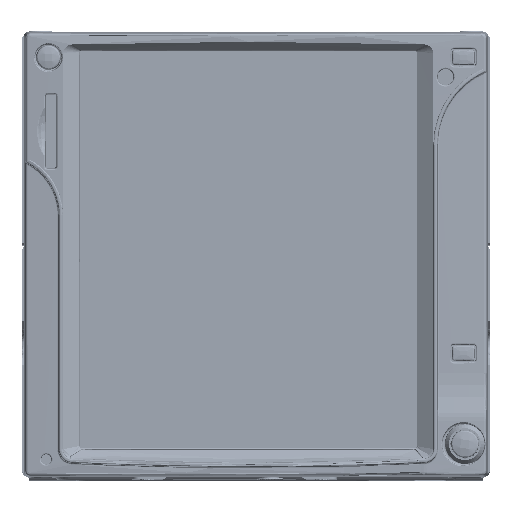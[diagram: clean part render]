
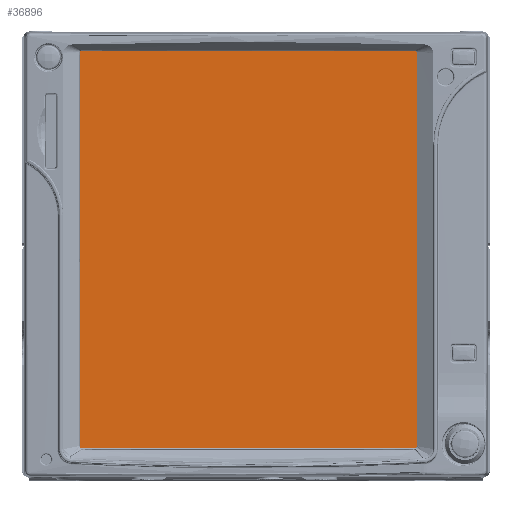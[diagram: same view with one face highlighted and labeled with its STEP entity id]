
A CAD part, top view. The second image highlights one B-rep face of the part: STEP entity #36896.
In plain terms, the highlighted planar face has unit normal (0, 0, 1).
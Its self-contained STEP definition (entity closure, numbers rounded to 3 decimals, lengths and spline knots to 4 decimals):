
#2022 = DIRECTION ( 'NONE',  ( 0., 0., 1. ) ) ;
#16816 = EDGE_CURVE ( 'NONE', #152366, #87018, #106699, .T. ) ;
#18077 = DIRECTION ( 'NONE',  ( 0., 1., 0. ) ) ;
#34893 = CARTESIAN_POINT ( 'NONE',  ( -2.3725, 5.722, 0.568 ) ) ;
#36896 = ADVANCED_FACE ( 'NONE', ( #73776 ), #93684, .T. ) ;
#51404 = CARTESIAN_POINT ( 'NONE',  ( -2.3725, 5.742, 0.568 ) ) ;
#54424 = CIRCLE ( 'NONE', #197893, 0.0205 ) ;
#59030 = DIRECTION ( 'NONE',  ( -1., 0., 0. ) ) ;
#59701 = CARTESIAN_POINT ( 'NONE',  ( -3.0709, 0.0657, 0.568 ) ) ;
#64398 = CARTESIAN_POINT ( 'NONE',  ( -2.352, 5.722, 0.568 ) ) ;
#65388 = CARTESIAN_POINT ( 'NONE',  ( 2.1615, 5.722, 0.568 ) ) ;
#67805 = CARTESIAN_POINT ( 'NONE',  ( -2.3725, 0.418, 0.568 ) ) ;
#69389 = DIRECTION ( 'NONE',  ( 0., -1., 0. ) ) ;
#73776 = FACE_OUTER_BOUND ( 'NONE', #80298, .T. ) ;
#74484 = ORIENTED_EDGE ( 'NONE', *, *, #168404, .F. ) ;
#77847 = DIRECTION ( 'NONE',  ( 0., 0., 1. ) ) ;
#78483 = CARTESIAN_POINT ( 'NONE',  ( -2.372, 5.7425, 0.568 ) ) ;
#80298 = EDGE_LOOP ( 'NONE', ( #140062, #195718, #214112, #81842, #140223, #82276, #74484, #169694 ) ) ;
#81380 = DIRECTION ( 'NONE',  ( 1., 0., 0. ) ) ;
#81842 = ORIENTED_EDGE ( 'NONE', *, *, #175611, .T. ) ;
#82276 = ORIENTED_EDGE ( 'NONE', *, *, #213819, .T. ) ;
#83042 = CARTESIAN_POINT ( 'NONE',  ( 2.141, 5.722, 0.568 ) ) ;
#87018 = VERTEX_POINT ( 'NONE', #175709 ) ;
#92769 = CARTESIAN_POINT ( 'NONE',  ( 2.141, 5.7425, 0.568 ) ) ;
#93684 = PLANE ( 'NONE',  #100205 ) ;
#95499 = DIRECTION ( 'NONE',  ( 1., 0., 0. ) ) ;
#100065 = DIRECTION ( 'NONE',  ( 1., 0., 0. ) ) ;
#100205 = AXIS2_PLACEMENT_3D ( 'NONE', #59701, #212037, #110716 ) ;
#100280 = CIRCLE ( 'NONE', #160508, 0.0205 ) ;
#101293 = LINE ( 'NONE', #78483, #185960 ) ;
#101504 = VERTEX_POINT ( 'NONE', #92769 ) ;
#103354 = CARTESIAN_POINT ( 'NONE',  ( -2.352, 0.418, 0.568 ) ) ;
#103487 = CARTESIAN_POINT ( 'NONE',  ( 2.1615, 5.742, 0.568 ) ) ;
#106699 = LINE ( 'NONE', #103487, #196694 ) ;
#110716 = DIRECTION ( 'NONE',  ( 1., 0., 0. ) ) ;
#114726 = VERTEX_POINT ( 'NONE', #34893 ) ;
#120338 = DIRECTION ( 'NONE',  ( 0., -1., 0. ) ) ;
#137335 = EDGE_CURVE ( 'NONE', #181517, #114726, #147344, .T. ) ;
#140062 = ORIENTED_EDGE ( 'NONE', *, *, #137335, .F. ) ;
#140223 = ORIENTED_EDGE ( 'NONE', *, *, #16816, .F. ) ;
#141483 = VERTEX_POINT ( 'NONE', #193567 ) ;
#146275 = VERTEX_POINT ( 'NONE', #176121 ) ;
#147344 = LINE ( 'NONE', #51404, #187088 ) ;
#150486 = VECTOR ( 'NONE', #59030, 39.3701 ) ;
#152366 = VERTEX_POINT ( 'NONE', #65388 ) ;
#160508 = AXIS2_PLACEMENT_3D ( 'NONE', #83042, #201400, #100065 ) ;
#168404 = EDGE_CURVE ( 'NONE', #141483, #101504, #101293, .T. ) ;
#169694 = ORIENTED_EDGE ( 'NONE', *, *, #195386, .T. ) ;
#175611 = EDGE_CURVE ( 'NONE', #146275, #87018, #54424, .T. ) ;
#175709 = CARTESIAN_POINT ( 'NONE',  ( 2.1615, 0.418, 0.568 ) ) ;
#176121 = CARTESIAN_POINT ( 'NONE',  ( 2.141, 0.3975, 0.568 ) ) ;
#177364 = CARTESIAN_POINT ( 'NONE',  ( -2.372, 0.3975, 0.568 ) ) ;
#179224 = CARTESIAN_POINT ( 'NONE',  ( 2.141, 0.418, 0.568 ) ) ;
#181517 = VERTEX_POINT ( 'NONE', #67805 ) ;
#182768 = DIRECTION ( 'NONE',  ( 0., 0., 1. ) ) ;
#185895 = CARTESIAN_POINT ( 'NONE',  ( -2.352, 0.3975, 0.568 ) ) ;
#185960 = VECTOR ( 'NONE', #95499, 39.3701 ) ;
#186945 = EDGE_CURVE ( 'NONE', #146275, #208085, #200870, .T. ) ;
#187088 = VECTOR ( 'NONE', #18077, 39.3701 ) ;
#188027 = CIRCLE ( 'NONE', #212139, 0.0205 ) ;
#191980 = CIRCLE ( 'NONE', #219554, 0.0205 ) ;
#193567 = CARTESIAN_POINT ( 'NONE',  ( -2.352, 5.7425, 0.568 ) ) ;
#195386 = EDGE_CURVE ( 'NONE', #141483, #114726, #188027, .T. ) ;
#195718 = ORIENTED_EDGE ( 'NONE', *, *, #198294, .T. ) ;
#196245 = DIRECTION ( 'NONE',  ( 0., -1., 0. ) ) ;
#196694 = VECTOR ( 'NONE', #69389, 39.3701 ) ;
#197893 = AXIS2_PLACEMENT_3D ( 'NONE', #179224, #77847, #196245 ) ;
#198294 = EDGE_CURVE ( 'NONE', #181517, #208085, #191980, .T. ) ;
#200870 = LINE ( 'NONE', #177364, #150486 ) ;
#201400 = DIRECTION ( 'NONE',  ( 0., 0., 1. ) ) ;
#208085 = VERTEX_POINT ( 'NONE', #185895 ) ;
#212037 = DIRECTION ( 'NONE',  ( 0., 0., 1. ) ) ;
#212139 = AXIS2_PLACEMENT_3D ( 'NONE', #64398, #182768, #81380 ) ;
#213819 = EDGE_CURVE ( 'NONE', #152366, #101504, #100280, .T. ) ;
#214112 = ORIENTED_EDGE ( 'NONE', *, *, #186945, .F. ) ;
#219554 = AXIS2_PLACEMENT_3D ( 'NONE', #103354, #2022, #120338 ) ;
